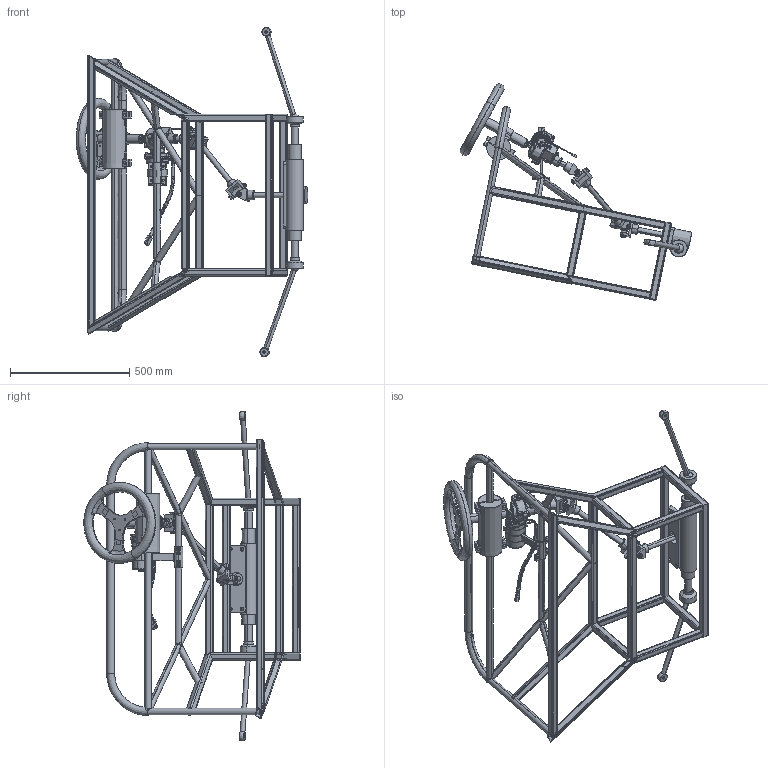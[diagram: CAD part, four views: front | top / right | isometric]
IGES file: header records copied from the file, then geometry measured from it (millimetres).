
Start section: SolidWorks IGES file using analytic representation for surfaces
Global section: file name: H:\college\pradeep\steering assembly igs.IGS; native system: SolidWorks 2018; preprocessor: SolidWorks 2018; author: Sathya; date: 190801.180313; units: millimetre
Bounding box: 972.94 x 908.33 x 1384.84 mm (x, y, z)
Surface area: 3715751.3 mm2 (no closed solid volume)
Topology: 0 solids, 0 shells, 2399 faces, 36971 edges, 36924 vertices
Faces by surface type: bspline 1219, revolution 1180
